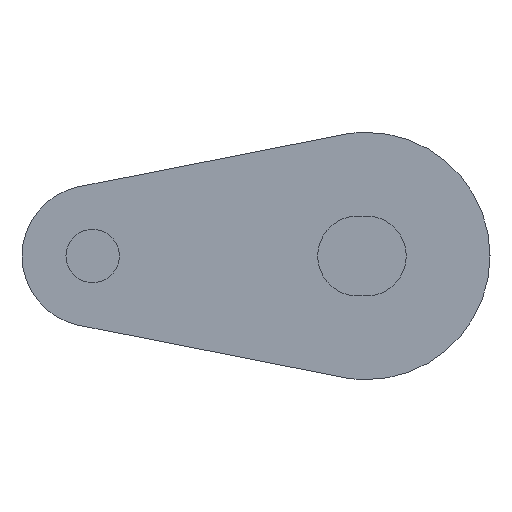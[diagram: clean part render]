
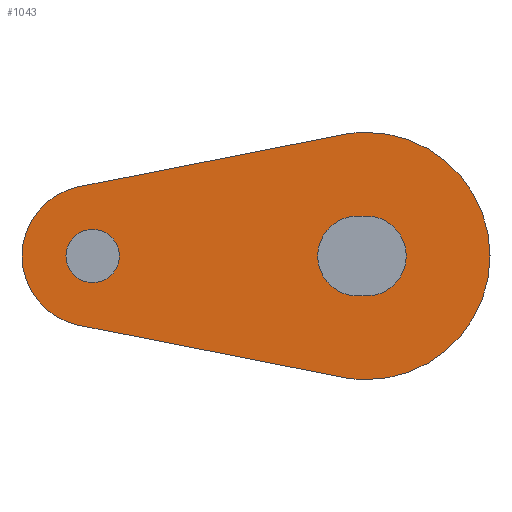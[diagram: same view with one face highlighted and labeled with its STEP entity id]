
A CAD part, left-side view. The second image highlights one B-rep face of the part: STEP entity #1043.
In plain terms, the highlighted planar face has unit normal (-1, 0, 0).
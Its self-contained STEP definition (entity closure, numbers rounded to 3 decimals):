
#10 = CARTESIAN_POINT ( 'NONE',  ( -253.5, 0., 0. ) ) ;
#38 = DIRECTION ( 'NONE',  ( 0., -0.981, 0.194 ) ) ;
#62 = DIRECTION ( 'NONE',  ( 0., -1., 0. ) ) ;
#68 = CARTESIAN_POINT ( 'NONE',  ( -253.5, 16.274, 3.924 ) ) ;
#72 = DIRECTION ( 'NONE',  ( 0., 0., -1. ) ) ;
#74 = CARTESIAN_POINT ( 'NONE',  ( -253.5, 0., 0. ) ) ;
#102 = CARTESIAN_POINT ( 'NONE',  ( -253.5, 0.5, 2.26 ) ) ;
#106 = DIRECTION ( 'NONE',  ( 0., 0.981, 0.194 ) ) ;
#107 = CARTESIAN_POINT ( 'NONE',  ( -253.5, 1.355, -6.868 ) ) ;
#117 = PLANE ( 'NONE',  #622 ) ;
#118 = CARTESIAN_POINT ( 'NONE',  ( -253.5, 15.5, 0. ) ) ;
#119 = DIRECTION ( 'NONE',  ( -1., 0., 0. ) ) ;
#120 = DIRECTION ( 'NONE',  ( 0., 0., -1. ) ) ;
#126 = DIRECTION ( 'NONE',  ( 0., 0., -1. ) ) ;
#129 = DIRECTION ( 'NONE',  ( 1., 0., 0. ) ) ;
#138 = CARTESIAN_POINT ( 'NONE',  ( -253.5, 0.5, 0. ) ) ;
#216 = DIRECTION ( 'NONE',  ( 0., 0., -1. ) ) ;
#219 = DIRECTION ( 'NONE',  ( 1., 0., 0. ) ) ;
#224 = CARTESIAN_POINT ( 'NONE',  ( -253.5, 0., 0. ) ) ;
#234 = DIRECTION ( 'NONE',  ( 0., 0., -1. ) ) ;
#236 = DIRECTION ( 'NONE',  ( 1., 0., 0. ) ) ;
#240 = CARTESIAN_POINT ( 'NONE',  ( -253.5, 15.5, 0. ) ) ;
#271 = DIRECTION ( 'NONE',  ( 0., 0., -1. ) ) ;
#272 = DIRECTION ( 'NONE',  ( 1., 0., 0. ) ) ;
#273 = CARTESIAN_POINT ( 'NONE',  ( -253.5, 15.5, 0. ) ) ;
#296 = DIRECTION ( 'NONE',  ( 0., 0., -1. ) ) ;
#298 = DIRECTION ( 'NONE',  ( 1., 0., 0. ) ) ;
#299 = CARTESIAN_POINT ( 'NONE',  ( -253.5, 15.5, 0. ) ) ;
#309 = DIRECTION ( 'NONE',  ( 0., 1., 0. ) ) ;
#322 = CARTESIAN_POINT ( 'NONE',  ( -253.5, 0., 0. ) ) ;
#324 = CARTESIAN_POINT ( 'NONE',  ( -253.5, 0.5, -2.26 ) ) ;
#325 = VERTEX_POINT ( 'NONE', #406 ) ;
#331 = CARTESIAN_POINT ( 'NONE',  ( -253.5, 0.5, -2.26 ) ) ;
#335 = CARTESIAN_POINT ( 'NONE',  ( -253.5, 16.274, 3.924 ) ) ;
#336 = VERTEX_POINT ( 'NONE', #446 ) ;
#339 = VERTEX_POINT ( 'NONE', #444 ) ;
#340 = VERTEX_POINT ( 'NONE', #443 ) ;
#345 = VERTEX_POINT ( 'NONE', #331 ) ;
#347 = VERTEX_POINT ( 'NONE', #452 ) ;
#353 = VERTEX_POINT ( 'NONE', #335 ) ;
#356 = DIRECTION ( 'NONE',  ( 1., 0., 0. ) ) ;
#358 = DIRECTION ( 'NONE',  ( 0., 0., -1. ) ) ;
#374 = DIRECTION ( 'NONE',  ( 1., 0., 0. ) ) ;
#399 = VERTEX_POINT ( 'NONE', #437 ) ;
#401 = VERTEX_POINT ( 'NONE', #435 ) ;
#404 = CARTESIAN_POINT ( 'NONE',  ( -253.5, 0., 7. ) ) ;
#406 = CARTESIAN_POINT ( 'NONE',  ( -253.5, 0., -2.26 ) ) ;
#414 = VERTEX_POINT ( 'NONE', #432 ) ;
#417 = VERTEX_POINT ( 'NONE', #404 ) ;
#420 = VERTEX_POINT ( 'NONE', #427 ) ;
#427 = CARTESIAN_POINT ( 'NONE',  ( -253.5, 15.5, -1.51 ) ) ;
#432 = CARTESIAN_POINT ( 'NONE',  ( -253.5, 16.274, -3.924 ) ) ;
#435 = CARTESIAN_POINT ( 'NONE',  ( -253.5, 1.355, -6.868 ) ) ;
#437 = CARTESIAN_POINT ( 'NONE',  ( -253.5, 0., -7. ) ) ;
#438 = DIRECTION ( 'NONE',  ( 0., 0., -1. ) ) ;
#439 = DIRECTION ( 'NONE',  ( 1., 0., 0. ) ) ;
#443 = CARTESIAN_POINT ( 'NONE',  ( -253.5, 0.5, 2.26 ) ) ;
#444 = CARTESIAN_POINT ( 'NONE',  ( -253.5, 0., 2.26 ) ) ;
#446 = CARTESIAN_POINT ( 'NONE',  ( -253.5, 15.5, 1.51 ) ) ;
#452 = CARTESIAN_POINT ( 'NONE',  ( -253.5, 1.355, 6.868 ) ) ;
#465 = EDGE_CURVE ( 'NONE', #417, #399, #808, .T. ) ;
#467 = EDGE_CURVE ( 'NONE', #325, #345, #1004, .T. ) ;
#475 = EDGE_CURVE ( 'NONE', #420, #336, #798, .T. ) ;
#484 = AXIS2_PLACEMENT_3D ( 'NONE', #10, #356, #358 ) ;
#504 = AXIS2_PLACEMENT_3D ( 'NONE', #74, #374, #72 ) ;
#509 = AXIS2_PLACEMENT_3D ( 'NONE', #224, #219, #216 ) ;
#513 = AXIS2_PLACEMENT_3D ( 'NONE', #138, #129, #126 ) ;
#516 = EDGE_CURVE ( 'NONE', #336, #420, #773, .T. ) ;
#518 = AXIS2_PLACEMENT_3D ( 'NONE', #273, #272, #271 ) ;
#521 = EDGE_CURVE ( 'NONE', #414, #353, #768, .T. ) ;
#523 = EDGE_CURVE ( 'NONE', #399, #401, #765, .T. ) ;
#533 = EDGE_CURVE ( 'NONE', #345, #340, #743, .T. ) ;
#537 = EDGE_CURVE ( 'NONE', #401, #414, #736, .T. ) ;
#547 = EDGE_CURVE ( 'NONE', #340, #339, #728, .T. ) ;
#558 = AXIS2_PLACEMENT_3D ( 'NONE', #322, #439, #438 ) ;
#590 = AXIS2_PLACEMENT_3D ( 'NONE', #240, #236, #234 ) ;
#591 = AXIS2_PLACEMENT_3D ( 'NONE', #299, #298, #296 ) ;
#593 = EDGE_CURVE ( 'NONE', #339, #325, #668, .T. ) ;
#619 = EDGE_CURVE ( 'NONE', #347, #417, #637, .T. ) ;
#621 = EDGE_CURVE ( 'NONE', #353, #347, #636, .T. ) ;
#622 = AXIS2_PLACEMENT_3D ( 'NONE', #118, #119, #120 ) ;
#636 = LINE ( 'NONE', #68, #656 ) ;
#637 = CIRCLE ( 'NONE', #504, 7. ) ;
#656 = VECTOR ( 'NONE', #38, 1000. ) ;
#668 = CIRCLE ( 'NONE', #484, 2.26 ) ;
#726 = VECTOR ( 'NONE', #62, 1000. ) ;
#728 = LINE ( 'NONE', #102, #726 ) ;
#734 = VECTOR ( 'NONE', #106, 1000. ) ;
#736 = LINE ( 'NONE', #107, #734 ) ;
#743 = CIRCLE ( 'NONE', #513, 2.26 ) ;
#765 = CIRCLE ( 'NONE', #509, 7. ) ;
#768 = CIRCLE ( 'NONE', #590, 4. ) ;
#773 = CIRCLE ( 'NONE', #518, 1.51 ) ;
#794 = FACE_OUTER_BOUND ( 'NONE', #971, .T. ) ;
#798 = CIRCLE ( 'NONE', #591, 1.51 ) ;
#808 = CIRCLE ( 'NONE', #558, 7. ) ;
#866 = VECTOR ( 'NONE', #309, 1000. ) ;
#868 = FACE_BOUND ( 'NONE', #935, .T. ) ;
#880 = FACE_BOUND ( 'NONE', #970, .T. ) ;
#918 = ORIENTED_EDGE ( 'NONE', *, *, #523, .F. ) ;
#927 = ORIENTED_EDGE ( 'NONE', *, *, #621, .F. ) ;
#930 = ORIENTED_EDGE ( 'NONE', *, *, #516, .T. ) ;
#931 = ORIENTED_EDGE ( 'NONE', *, *, #465, .F. ) ;
#932 = ORIENTED_EDGE ( 'NONE', *, *, #619, .F. ) ;
#933 = ORIENTED_EDGE ( 'NONE', *, *, #521, .F. ) ;
#934 = ORIENTED_EDGE ( 'NONE', *, *, #537, .F. ) ;
#935 = EDGE_LOOP ( 'NONE', ( #954, #956, #973, #976 ) ) ;
#954 = ORIENTED_EDGE ( 'NONE', *, *, #533, .T. ) ;
#956 = ORIENTED_EDGE ( 'NONE', *, *, #547, .T. ) ;
#970 = EDGE_LOOP ( 'NONE', ( #989, #930 ) ) ;
#971 = EDGE_LOOP ( 'NONE', ( #933, #934, #918, #931, #932, #927 ) ) ;
#973 = ORIENTED_EDGE ( 'NONE', *, *, #593, .T. ) ;
#976 = ORIENTED_EDGE ( 'NONE', *, *, #467, .T. ) ;
#989 = ORIENTED_EDGE ( 'NONE', *, *, #475, .T. ) ;
#1004 = LINE ( 'NONE', #324, #866 ) ;
#1043 = ADVANCED_FACE ( 'NONE', ( #868, #880, #794 ), #117, .T. ) ;
